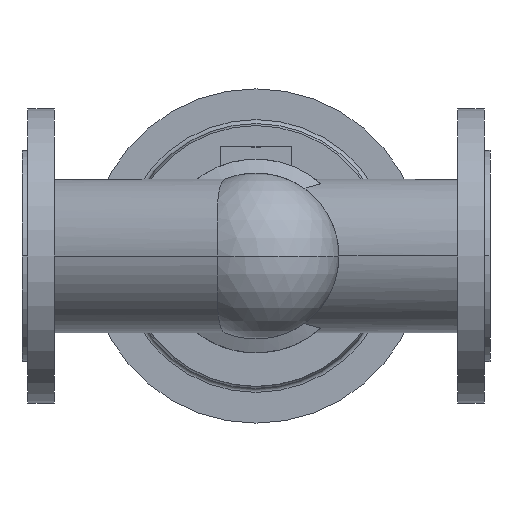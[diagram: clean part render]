
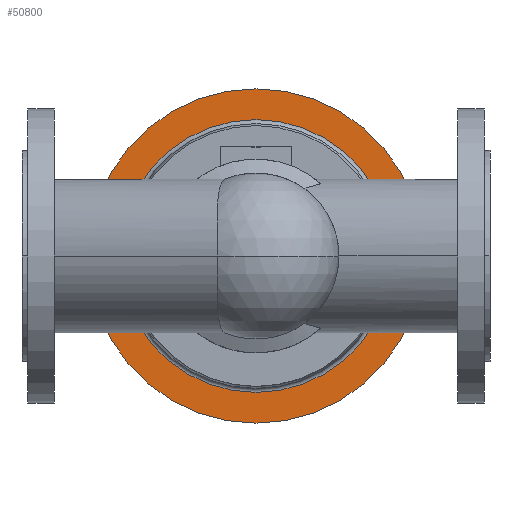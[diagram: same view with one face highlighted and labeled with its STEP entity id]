
A CAD part, front view. The second image highlights one B-rep face of the part: STEP entity #50800.
In plain terms, the highlighted planar face has unit normal (0, -1, 0).
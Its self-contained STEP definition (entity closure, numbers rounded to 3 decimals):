
#50200=CARTESIAN_POINT('',(175.,673.2,0.));
#50210=DIRECTION('',(0.,1.,0.));
#50220=DIRECTION('',(1.,0.,0.));
#50230=AXIS2_PLACEMENT_3D('',#50200,#50210,#50220);
#50240=CIRCLE('',#50230,102.);
#50250=CARTESIAN_POINT('',(175.,673.2,-102.));
#50260=VERTEX_POINT('',#50250);
#50270=CARTESIAN_POINT('',(73.,673.2,0.));
#50280=VERTEX_POINT('',#50270);
#50290=EDGE_CURVE('',#50260,#50280,#50240,.T.);
#50450=CARTESIAN_POINT('',(277.,673.2,0.));
#50460=VERTEX_POINT('',#50450);
#50490=EDGE_CURVE('',#50460,#50260,#50240,.T.);
#50540=CARTESIAN_POINT('',(288.5,673.2,0.));
#50550=DIRECTION('',(0.,-1.,0.));
#50560=DIRECTION('',(-1.,0.,0.));
#50570=AXIS2_PLACEMENT_3D('',#50540,#50550,#50560);
#50580=PLANE('',#50570);
#50590=CARTESIAN_POINT('',(175.,673.2,0.));
#50600=DIRECTION('',(0.,1.,0.));
#50610=DIRECTION('',(1.,0.,0.));
#50620=AXIS2_PLACEMENT_3D('',#50590,#50600,#50610);
#50630=CIRCLE('',#50620,125.);
#50640=CARTESIAN_POINT('',(50.,673.2,0.));
#50650=VERTEX_POINT('',#50640);
#50660=CARTESIAN_POINT('',(300.,673.2,0.));
#50670=VERTEX_POINT('',#50660);
#50680=EDGE_CURVE('',#50650,#50670,#50630,.T.);
#50690=ORIENTED_EDGE('',*,*,#50680,.F.);
#50700=EDGE_CURVE('',#50670,#50650,#50630,.T.);
#50710=ORIENTED_EDGE('',*,*,#50700,.F.);
#50720=EDGE_LOOP('',(#50710,#50690));
#50730=FACE_OUTER_BOUND('',#50720,.T.);
#50740=EDGE_CURVE('',#50280,#50460,#50240,.T.);
#50750=ORIENTED_EDGE('',*,*,#50740,.T.);
#50760=ORIENTED_EDGE('',*,*,#50290,.T.);
#50770=ORIENTED_EDGE('',*,*,#50490,.T.);
#50780=EDGE_LOOP('',(#50770,#50760,#50750));
#50790=FACE_BOUND('',#50780,.T.);
#50800=ADVANCED_FACE('',(#50730,#50790),#50580,.T.);
